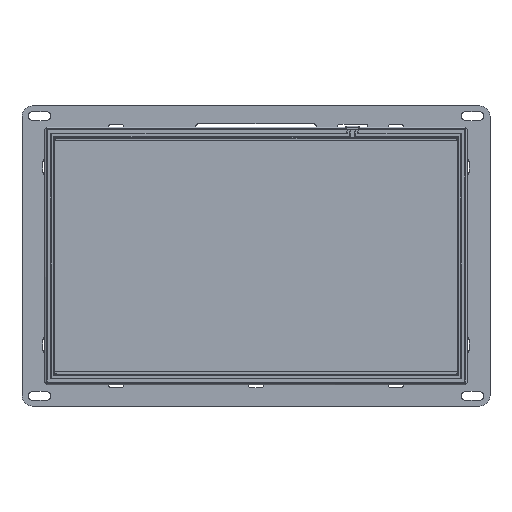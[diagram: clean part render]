
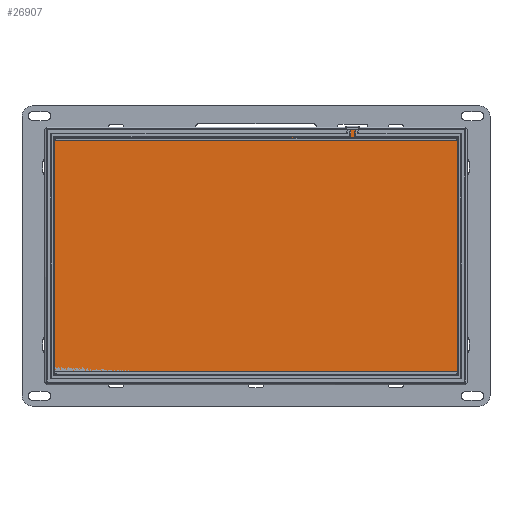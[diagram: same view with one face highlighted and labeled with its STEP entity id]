
A CAD part, top view. The second image highlights one B-rep face of the part: STEP entity #26907.
In plain terms, the highlighted planar face has unit normal (0, 0, 1) as drawn and (0, 1, 0) by its records, which use the part's own axes.
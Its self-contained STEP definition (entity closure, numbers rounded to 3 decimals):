
#96 = VECTOR ( 'NONE', #22285, 1000. ) ;
#236 = VECTOR ( 'NONE', #21490, 1000. ) ;
#345 = ORIENTED_EDGE ( 'NONE', *, *, #15793, .T. ) ;
#434 = DIRECTION ( 'NONE',  ( 1., 0., 0. ) ) ;
#612 = CARTESIAN_POINT ( 'NONE',  ( -78.883, 1.5, 45.568 ) ) ;
#716 = LINE ( 'NONE', #14517, #2391 ) ;
#2233 = CARTESIAN_POINT ( 'NONE',  ( 0., 1.5, -46.9 ) ) ;
#2328 = CARTESIAN_POINT ( 'NONE',  ( 0., 1.5, 47.068 ) ) ;
#2391 = VECTOR ( 'NONE', #14070, 1000. ) ;
#2660 = CARTESIAN_POINT ( 'NONE',  ( 38.913, 1.5, -46.9 ) ) ;
#2729 = LINE ( 'NONE', #12022, #236 ) ;
#3171 = VERTEX_POINT ( 'NONE', #21958 ) ;
#3213 = EDGE_LOOP ( 'NONE', ( #345, #23061, #11429, #28082 ) ) ;
#3551 = VERTEX_POINT ( 'NONE', #612 ) ;
#3589 = CARTESIAN_POINT ( 'NONE',  ( 0., 1.5, 46.568 ) ) ;
#3717 = VERTEX_POINT ( 'NONE', #24785 ) ;
#3842 = VECTOR ( 'NONE', #19515, 1000. ) ;
#4160 = VERTEX_POINT ( 'NONE', #17966 ) ;
#4228 = VERTEX_POINT ( 'NONE', #8161 ) ;
#4408 = CARTESIAN_POINT ( 'NONE',  ( 78.789, 1.5, -46.4 ) ) ;
#4607 = CARTESIAN_POINT ( 'NONE',  ( -79.4, 1.5, 47.068 ) ) ;
#4875 = LINE ( 'NONE', #14037, #10703 ) ;
#5302 = ORIENTED_EDGE ( 'NONE', *, *, #12572, .T. ) ;
#6374 = VERTEX_POINT ( 'NONE', #29426 ) ;
#6386 = LINE ( 'NONE', #8349, #19282 ) ;
#6461 = VERTEX_POINT ( 'NONE', #22365 ) ;
#6699 = EDGE_CURVE ( 'NONE', #4160, #3551, #29060, .T. ) ;
#6893 = CARTESIAN_POINT ( 'NONE',  ( 0., 1.5, -46.4 ) ) ;
#7367 = FACE_BOUND ( 'NONE', #3213, .T. ) ;
#7436 = AXIS2_PLACEMENT_3D ( 'NONE', #18939, #21337, #28262 ) ;
#7851 = VERTEX_POINT ( 'NONE', #4607 ) ;
#7864 = ORIENTED_EDGE ( 'NONE', *, *, #8949, .T. ) ;
#8161 = CARTESIAN_POINT ( 'NONE',  ( 79.4, 1.5, 47.068 ) ) ;
#8349 = CARTESIAN_POINT ( 'NONE',  ( 36.952, 1.5, 0. ) ) ;
#8949 = EDGE_CURVE ( 'NONE', #3717, #26443, #27157, .T. ) ;
#9146 = VECTOR ( 'NONE', #26990, 1000. ) ;
#9166 = ORIENTED_EDGE ( 'NONE', *, *, #17245, .T. ) ;
#9631 = LINE ( 'NONE', #28138, #29248 ) ;
#10420 = CARTESIAN_POINT ( 'NONE',  ( -78.883, 1.5, 0. ) ) ;
#10673 = LINE ( 'NONE', #27059, #11759 ) ;
#10703 = VECTOR ( 'NONE', #23055, 1000. ) ;
#11203 = LINE ( 'NONE', #2328, #29441 ) ;
#11258 = ORIENTED_EDGE ( 'NONE', *, *, #24740, .T. ) ;
#11329 = LINE ( 'NONE', #13432, #9146 ) ;
#11429 = ORIENTED_EDGE ( 'NONE', *, *, #22236, .T. ) ;
#11759 = VECTOR ( 'NONE', #13069, 1000. ) ;
#11790 = CARTESIAN_POINT ( 'NONE',  ( 78.789, 1.5, 46.568 ) ) ;
#11900 = ORIENTED_EDGE ( 'NONE', *, *, #27283, .T. ) ;
#11982 = LINE ( 'NONE', #14826, #17000 ) ;
#12022 = CARTESIAN_POINT ( 'NONE',  ( 0., 1.5, -46.9 ) ) ;
#12029 = EDGE_CURVE ( 'NONE', #4228, #15959, #25326, .T. ) ;
#12057 = VECTOR ( 'NONE', #18301, 1000. ) ;
#12230 = CARTESIAN_POINT ( 'NONE',  ( 78.789, 1.5, -45.4 ) ) ;
#12464 = FACE_BOUND ( 'NONE', #28690, .T. ) ;
#12572 = EDGE_CURVE ( 'NONE', #14829, #3717, #12808, .T. ) ;
#12601 = LINE ( 'NONE', #3589, #3842 ) ;
#12808 = LINE ( 'NONE', #24238, #12057 ) ;
#12842 = ORIENTED_EDGE ( 'NONE', *, *, #12029, .T. ) ;
#12863 = CARTESIAN_POINT ( 'NONE',  ( -78.97, 1.5, 0. ) ) ;
#13069 = DIRECTION ( 'NONE',  ( 1., 0., 0. ) ) ;
#13332 = VERTEX_POINT ( 'NONE', #29668 ) ;
#13432 = CARTESIAN_POINT ( 'NONE',  ( -79.4, 1.5, 0. ) ) ;
#14037 = CARTESIAN_POINT ( 'NONE',  ( 78.789, 1.5, 0. ) ) ;
#14070 = DIRECTION ( 'NONE',  ( 0., 0., -1. ) ) ;
#14156 = VECTOR ( 'NONE', #18452, 1000. ) ;
#14517 = CARTESIAN_POINT ( 'NONE',  ( 38.913, 1.5, 0. ) ) ;
#14715 = FACE_OUTER_BOUND ( 'NONE', #25245, .T. ) ;
#14826 = CARTESIAN_POINT ( 'NONE',  ( -82.1, 1.5, -49.6 ) ) ;
#14829 = VERTEX_POINT ( 'NONE', #12230 ) ;
#14864 = ORIENTED_EDGE ( 'NONE', *, *, #22432, .T. ) ;
#15151 = EDGE_CURVE ( 'NONE', #20195, #14829, #9631, .T. ) ;
#15382 = VECTOR ( 'NONE', #15721, 1000. ) ;
#15721 = DIRECTION ( 'NONE',  ( 0., 0., -1. ) ) ;
#15793 = EDGE_CURVE ( 'NONE', #24858, #4160, #12601, .T. ) ;
#15930 = EDGE_CURVE ( 'NONE', #22756, #13332, #716, .T. ) ;
#15959 = VERTEX_POINT ( 'NONE', #25946 ) ;
#17000 = VECTOR ( 'NONE', #19358, 1000. ) ;
#17245 = EDGE_CURVE ( 'NONE', #3171, #7851, #11329, .T. ) ;
#17966 = CARTESIAN_POINT ( 'NONE',  ( -78.883, 1.5, 46.568 ) ) ;
#18212 = CARTESIAN_POINT ( 'NONE',  ( -78.97, 1.5, -46.4 ) ) ;
#18301 = DIRECTION ( 'NONE',  ( -1., 0., 0. ) ) ;
#18452 = DIRECTION ( 'NONE',  ( -1., 0., 0. ) ) ;
#18939 = CARTESIAN_POINT ( 'NONE',  ( 0., 1.5, 0. ) ) ;
#18944 = ORIENTED_EDGE ( 'NONE', *, *, #28193, .T. ) ;
#19282 = VECTOR ( 'NONE', #24867, 1000. ) ;
#19358 = DIRECTION ( 'NONE',  ( -1., 0., 0. ) ) ;
#19406 = DIRECTION ( 'NONE',  ( 0., 0., 1. ) ) ;
#19515 = DIRECTION ( 'NONE',  ( -1., 0., 0. ) ) ;
#19672 = ORIENTED_EDGE ( 'NONE', *, *, #21192, .T. ) ;
#20015 = EDGE_CURVE ( 'NONE', #15959, #22756, #2729, .T. ) ;
#20195 = VERTEX_POINT ( 'NONE', #4408 ) ;
#21192 = EDGE_CURVE ( 'NONE', #13332, #6461, #11982, .T. ) ;
#21337 = DIRECTION ( 'NONE',  ( 0., 1., 0. ) ) ;
#21490 = DIRECTION ( 'NONE',  ( -1., 0., 0. ) ) ;
#21790 = ORIENTED_EDGE ( 'NONE', *, *, #15151, .T. ) ;
#21958 = CARTESIAN_POINT ( 'NONE',  ( -79.4, 1.5, -46.9 ) ) ;
#22236 = EDGE_CURVE ( 'NONE', #3551, #27483, #10673, .T. ) ;
#22285 = DIRECTION ( 'NONE',  ( 0., 0., -1. ) ) ;
#22365 = CARTESIAN_POINT ( 'NONE',  ( 36.952, 1.5, -49.6 ) ) ;
#22432 = EDGE_CURVE ( 'NONE', #26443, #20195, #27780, .T. ) ;
#22756 = VERTEX_POINT ( 'NONE', #2660 ) ;
#23055 = DIRECTION ( 'NONE',  ( 0., 0., 1. ) ) ;
#23061 = ORIENTED_EDGE ( 'NONE', *, *, #6699, .T. ) ;
#23304 = PLANE ( 'NONE',  #7436 ) ;
#24238 = CARTESIAN_POINT ( 'NONE',  ( 0., 1.5, -45.4 ) ) ;
#24740 = EDGE_CURVE ( 'NONE', #7851, #4228, #11203, .T. ) ;
#24760 = CARTESIAN_POINT ( 'NONE',  ( 79.4, 1.5, 0. ) ) ;
#24785 = CARTESIAN_POINT ( 'NONE',  ( -78.97, 1.5, -45.4 ) ) ;
#24858 = VERTEX_POINT ( 'NONE', #11790 ) ;
#24867 = DIRECTION ( 'NONE',  ( 0., 0., 1. ) ) ;
#24879 = EDGE_CURVE ( 'NONE', #27483, #24858, #4875, .T. ) ;
#25173 = DIRECTION ( 'NONE',  ( 1., 0., 0. ) ) ;
#25245 = EDGE_LOOP ( 'NONE', ( #26459, #28549, #19672, #18944, #11900, #9166, #11258, #12842 ) ) ;
#25326 = LINE ( 'NONE', #24760, #15382 ) ;
#25946 = CARTESIAN_POINT ( 'NONE',  ( 79.4, 1.5, -46.9 ) ) ;
#26259 = VECTOR ( 'NONE', #28968, 1000. ) ;
#26268 = CARTESIAN_POINT ( 'NONE',  ( 78.789, 1.5, 45.568 ) ) ;
#26443 = VERTEX_POINT ( 'NONE', #18212 ) ;
#26459 = ORIENTED_EDGE ( 'NONE', *, *, #20015, .T. ) ;
#26907 = ADVANCED_FACE ( 'NONE', ( #14715, #7367, #12464 ), #23304, .T. ) ;
#26990 = DIRECTION ( 'NONE',  ( 0., 0., 1. ) ) ;
#27059 = CARTESIAN_POINT ( 'NONE',  ( 0., 1.5, 45.568 ) ) ;
#27151 = VECTOR ( 'NONE', #434, 1000. ) ;
#27157 = LINE ( 'NONE', #12863, #26259 ) ;
#27195 = LINE ( 'NONE', #2233, #14156 ) ;
#27283 = EDGE_CURVE ( 'NONE', #6374, #3171, #27195, .T. ) ;
#27483 = VERTEX_POINT ( 'NONE', #26268 ) ;
#27780 = LINE ( 'NONE', #6893, #27151 ) ;
#28082 = ORIENTED_EDGE ( 'NONE', *, *, #24879, .T. ) ;
#28138 = CARTESIAN_POINT ( 'NONE',  ( 78.789, 1.5, 0. ) ) ;
#28193 = EDGE_CURVE ( 'NONE', #6461, #6374, #6386, .T. ) ;
#28262 = DIRECTION ( 'NONE',  ( 1., 0., 0. ) ) ;
#28549 = ORIENTED_EDGE ( 'NONE', *, *, #15930, .T. ) ;
#28690 = EDGE_LOOP ( 'NONE', ( #5302, #7864, #14864, #21790 ) ) ;
#28968 = DIRECTION ( 'NONE',  ( 0., 0., -1. ) ) ;
#29060 = LINE ( 'NONE', #10420, #96 ) ;
#29248 = VECTOR ( 'NONE', #19406, 1000. ) ;
#29426 = CARTESIAN_POINT ( 'NONE',  ( 36.952, 1.5, -46.9 ) ) ;
#29441 = VECTOR ( 'NONE', #25173, 1000. ) ;
#29668 = CARTESIAN_POINT ( 'NONE',  ( 38.913, 1.5, -49.6 ) ) ;
